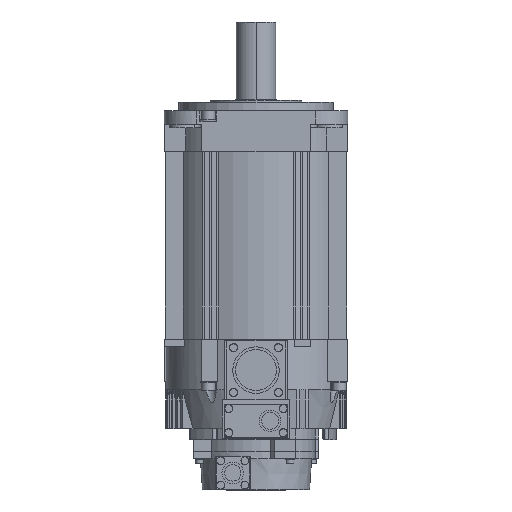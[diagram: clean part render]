
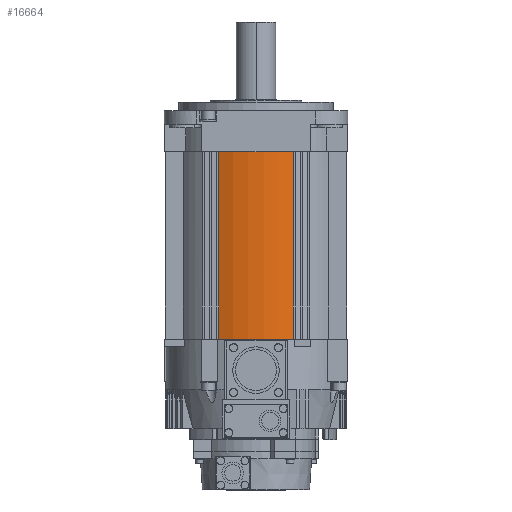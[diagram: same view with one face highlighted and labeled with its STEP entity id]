
A CAD part, front view. The second image highlights one B-rep face of the part: STEP entity #16664.
In plain terms, the highlighted cylindrical face has radius 64.3 mm (diameter 128.6 mm), a partial arc.
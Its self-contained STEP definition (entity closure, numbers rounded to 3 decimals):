
#1601 = EDGE_CURVE ( 'NONE', #1609, #1603, #2689, .T. ) ;
#1603 = VERTEX_POINT ( 'NONE', #2680 ) ;
#1609 = VERTEX_POINT ( 'NONE', #2675 ) ;
#2675 = CARTESIAN_POINT ( 'NONE',  ( 26.3, -58.675, -162. ) ) ;
#2680 = CARTESIAN_POINT ( 'NONE',  ( -26.3, -58.675, -162. ) ) ;
#2685 = DIRECTION ( 'NONE',  ( 1., 0., 0. ) ) ;
#2686 = DIRECTION ( 'NONE',  ( 0., 0., -1. ) ) ;
#2687 = CARTESIAN_POINT ( 'NONE',  ( 0., 0., -162. ) ) ;
#2688 = AXIS2_PLACEMENT_3D ( 'NONE', #2687, #2686, #2685 ) ;
#2689 = CIRCLE ( 'NONE', #2688, 64.3 ) ;
#3662 = CARTESIAN_POINT ( 'NONE',  ( -26.3, -58.675, -29. ) ) ;
#3675 = CARTESIAN_POINT ( 'NONE',  ( 26.3, -58.675, -29. ) ) ;
#3686 = DIRECTION ( 'NONE',  ( 0., 0., -1. ) ) ;
#3687 = VECTOR ( 'NONE', #3686, 1000. ) ;
#3688 = CARTESIAN_POINT ( 'NONE',  ( 26.3, -58.675, -343.868 ) ) ;
#3689 = LINE ( 'NONE', #3688, #3687 ) ;
#3717 = DIRECTION ( 'NONE',  ( 1., 0., 0. ) ) ;
#3718 = DIRECTION ( 'NONE',  ( 0., 0., 1. ) ) ;
#3719 = CARTESIAN_POINT ( 'NONE',  ( 0., 0., -343.868 ) ) ;
#3720 = AXIS2_PLACEMENT_3D ( 'NONE', #3719, #3718, #3717 ) ;
#3722 = CYLINDRICAL_SURFACE ( 'NONE', #3720, 64.3 ) ;
#3723 = FACE_OUTER_BOUND ( 'NONE', #16631, .T. ) ;
#3739 = DIRECTION ( 'NONE',  ( 0., 0., 1. ) ) ;
#3740 = VECTOR ( 'NONE', #3739, 1000. ) ;
#3741 = CARTESIAN_POINT ( 'NONE',  ( -26.3, -58.675, -343.868 ) ) ;
#3742 = LINE ( 'NONE', #3741, #3740 ) ;
#10623 = DIRECTION ( 'NONE',  ( 0., 0., 1. ) ) ;
#10624 = CARTESIAN_POINT ( 'NONE',  ( 0., 0., -29. ) ) ;
#10625 = AXIS2_PLACEMENT_3D ( 'NONE', #10624, #10623, #10686 ) ;
#10626 = CIRCLE ( 'NONE', #10625, 64.3 ) ;
#10686 = DIRECTION ( 'NONE',  ( 1., 0., 0. ) ) ;
#16606 = VERTEX_POINT ( 'NONE', #3675 ) ;
#16614 = VERTEX_POINT ( 'NONE', #3662 ) ;
#16623 = ORIENTED_EDGE ( 'NONE', *, *, #16649, .F. ) ;
#16631 = EDGE_LOOP ( 'NONE', ( #16623, #16642, #16644, #20973 ) ) ;
#16642 = ORIENTED_EDGE ( 'NONE', *, *, #1601, .F. ) ;
#16643 = EDGE_CURVE ( 'NONE', #16606, #1609, #3689, .T. ) ;
#16644 = ORIENTED_EDGE ( 'NONE', *, *, #16643, .F. ) ;
#16649 = EDGE_CURVE ( 'NONE', #1603, #16614, #3742, .T. ) ;
#16664 = ADVANCED_FACE ( 'NONE', ( #3723 ), #3722, .T. ) ;
#20960 = EDGE_CURVE ( 'NONE', #16614, #16606, #10626, .T. ) ;
#20973 = ORIENTED_EDGE ( 'NONE', *, *, #20960, .F. ) ;
